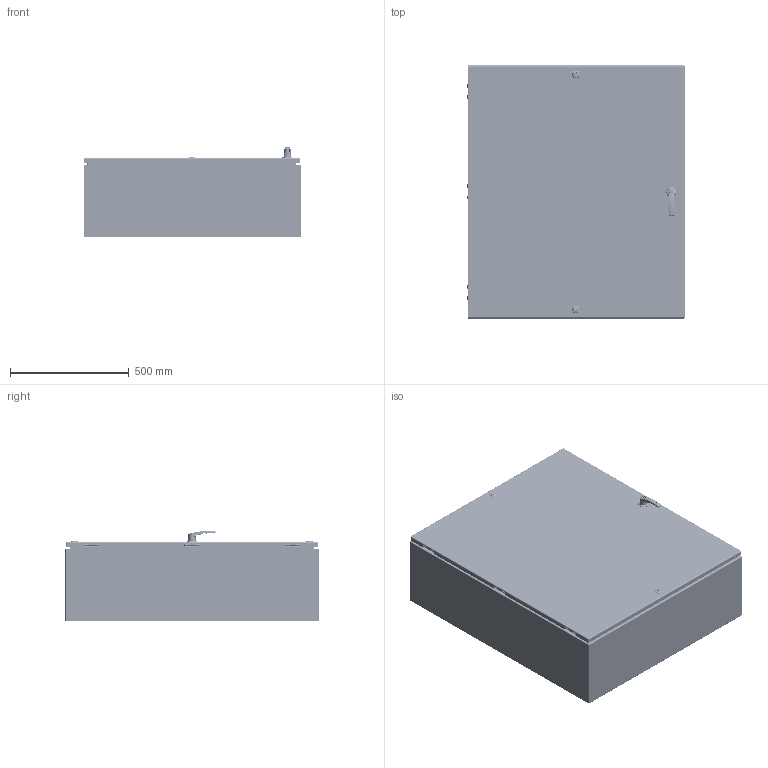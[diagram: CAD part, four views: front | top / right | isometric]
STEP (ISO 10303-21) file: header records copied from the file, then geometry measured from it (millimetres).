
FILE_DESCRIPTION(/* description */ ('5412ES 42" x 36" x 12" Assembly'),/* implementation_level */ '2;1');
FILE_NAME(/* name */ '5412ESB423612.stp',/* time_stamp */ '2024-01-17T17:22:02-05:00',/* author */ ('BoxCad'),/* organization */ (''),/* preprocessor_version */ 'ST-DEVELOPER v20',/* originating_system */ 'Autodesk Inventor 2024',/* authorisation */ '');
FILE_SCHEMA (('AUTOMOTIVE_DESIGN { 1 0 10303 214 3 1 1 }'));
Products named in the file (67): 5412ESB423612; 5412ESB423612B; 5412ESB423612B-P; STK-Q-16005; STUD_M6 x 16mm; 5412ESB423612C; 5412ESB423612C-P; 5412ESB423612G; STK-K-09800; STK-K-09800-2; STK-K-09800-3; STK-Q-33014; STK-Q-90398; STK-Q-40095; STK-Q-63410; STK-Q-16405; STK-Q-46020-42; STK-Q-07220-1; STK-Q-07220-2; STK-Q-07220-3; STK-Q-07220-4; STK-Q-07220-5; STK-Q-07220-6; STK-Q-07220-A; STK-Q-07220-B; STK-Q-16055; STK-Q-46515-1; STK-Q-46515-B; STK-Q-46515-A; STK-P-03820R; STK-S-00100; STK-A-885ESL2A-L-1; STK-Q-78210; STK-Q-78215; STK-Q-78220-K; STK-Q-78230; STK-Q-78240; STK-Q-03200-NT; STK-Q-78125; STK-Q-90380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
Assembly tree (127 placements, depth 4):
  5412ESB423612
    5412ESB423612B
      5412ESB423612B-P
      STK-Q-16005  x8
      STK-P-03820R
      STUD_M6 x 16mm
    5412ESB423612C
      5412ESB423612C-P
      5412ESB423612G
      STK-K-09800
        STK-Q-33014
        STK-Q-90398
        STK-Q-40095  x2
        STK-Q-63410  x2
      STK-K-09800-2
        STK-Q-33014
        STK-Q-90398
        STK-Q-40095  x2
        STK-Q-63410  x2
      STK-K-09800-3
        STK-Q-33014
        STK-Q-90398
        STK-Q-40095  x2
        STK-Q-63410  x2
      STK-Q-16055  x7
      STK-Q-16405  x2
      STK-Q-46020-42  x2
      STK-Q-07220-1
        STK-Q-07220-A
        STK-Q-07220-B
      STK-Q-07220-2
        STK-Q-07220-A
        STK-Q-07220-B
      STK-Q-07220-3
        STK-Q-07220-A
        STK-Q-07220-B
      STK-Q-07220-4
        STK-Q-07220-A
        STK-Q-07220-B
      STK-Q-07220-5
        STK-Q-07220-A
        STK-Q-07220-B
      STK-Q-07220-6
        STK-Q-07220-A
        STK-Q-07220-B
      STK-Q-46515-1
        STK-Q-46515-B
        STK-Q-46515-A
      STK-P-03820R
      STK-S-00100
      STK-A-885ESL2A-L-1
        STK-Q-78210
        STK-Q-78215
        STK-Q-78220-K
        STK-Q-78230
        STK-Q-78240
        STK-Q-03200-NT
        STK-Q-78125
        STK-Q-90380
      STK-Q-90051
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Bounding box: 914.85 x 1066.8 x 380.49 mm (x, y, z)
Volume: 8837055.7 mm3; surface area: 9157426.1 mm2
Topology: 111 solids, 111 shells, 19410 faces, 51542 edges, 32501 vertices
Faces by surface type: bspline 6921, plane 5411, cylinder 5000, torus 1453, sphere 346, cone 279
Full cylindrical faces by diameter (mm): 0 x1, 0.75 x18, 0.762 x18, 1 x12, 1.1 x12, 1.581 x1, 2.459 x1, 3.2 x6, 3.8 x2, 4.191 x76, 4.2 x2, 4.4 x12, 4.5 x7, 4.521 x12, 4.75 x3, 4.826 x1, 4.85 x24, 4.95 x6, 5 x6, 5.1 x38, 5.105 x11, 5.11 x1, 5.156 x2, 5.2 x2, 5.6 x3, 5.9 x31, 6 x2, 6.015 x76, 6.65 x8, 6.8 x6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
Entity records: 299240 total; most frequent: CARTESIAN_POINT 117553, ORIENTED_EDGE 40768, DIRECTION 31622, EDGE_CURVE 20384, VERTEX_POINT 12763, AXIS2_PLACEMENT_3D 11424, LINE 8774, VECTOR 8774
